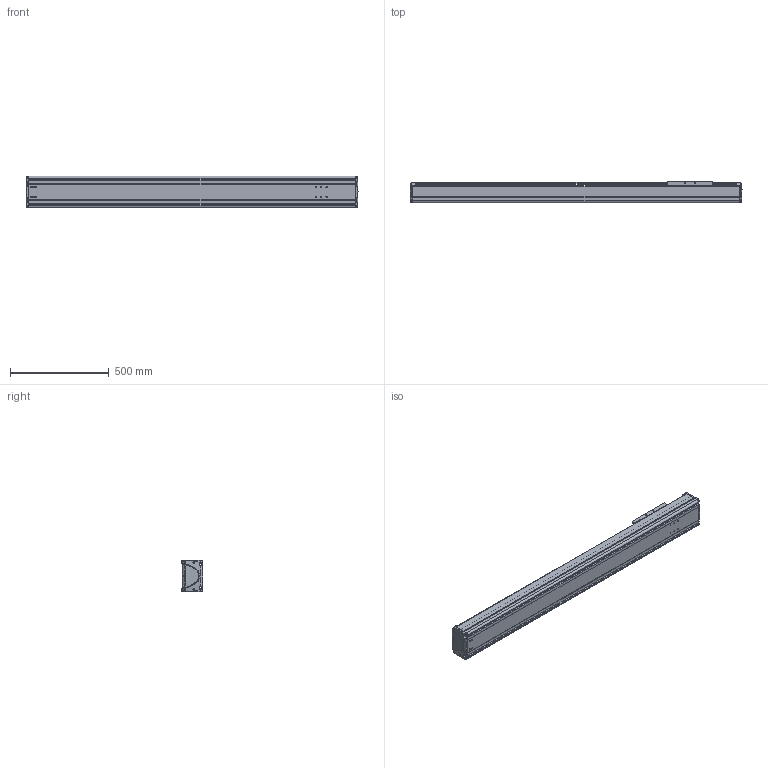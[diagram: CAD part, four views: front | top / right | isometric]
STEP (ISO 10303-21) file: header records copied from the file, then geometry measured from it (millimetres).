
FILE_DESCRIPTION((''),'2;1');
FILE_NAME('BE50G-ST-L_N-C5_IGS_PRT','2017-06-18T',(' '),(''),'PRO/ENGINEER BY PARAMETRIC TECHNOLOGY CORPORATION, 2015030','PRO/ENGINEER BY PARAMETRIC TECHNOLOGY CORPORATION, 2015030','');
FILE_SCHEMA(('CONFIG_CONTROL_DESIGN'));
Length unit declared in the file: millimetre
Products named in the file (1): BE50G-ST-L_N-C5_IGS_PRT
Bounding box: 1679.98 x 110 x 160 mm (x, y, z)
Volume: 7046931.3 mm3; surface area: 2554408 mm2
Topology: 3 solids, 108 shells, 1726 faces, 4638 edges, 2997 vertices
Faces by surface type: cylinder 800, plane 607, bspline 102, cone 90, torus 87, sphere 40
Entity records: 60023 total; most frequent: CARTESIAN_POINT 17352, ORIENTED_EDGE 8794, DIRECTION 8680, EDGE_CURVE 4604, AXIS2_PLACEMENT_3D 3268, VERTEX_POINT 2989, VECTOR 2144, LINE 2144
